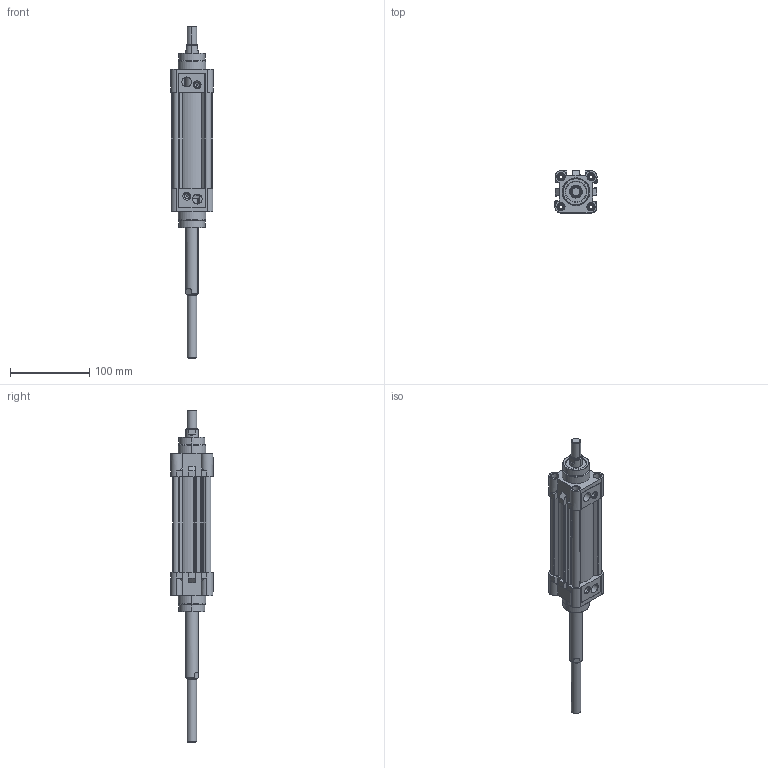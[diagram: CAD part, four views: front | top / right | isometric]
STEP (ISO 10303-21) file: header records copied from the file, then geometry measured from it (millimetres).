
FILE_DESCRIPTION (( 'STEP AP203' ), '1' );
FILE_NAME ('KDNT40X75CIFTMILLI-STROK AYARLI-CYLINDER.STEP', '2016-03-24T11:48:52', ( 'user' ), ( '' ), 'SwSTEP 2.0', 'SolidWorks 2013', '' );
FILE_SCHEMA (( 'CONFIG_CONTROL_DESIGN' ));
Length unit declared in the file: millimetre
Products named in the file (6): KDNT40X75CIFTMILLI-STROK AYARLI-CYLINDER; Saplama Mili STROK AYARLI 40X75 STROK; 烰 KAPAK  40; PÝSTON MÝLÝ 40X75; KDNT 40X75 BORU; ORTA PÝSTON 40 Çift Milli
Assembly tree (6 placements, depth 2):
  KDNT40X75CIFTMILLI-STROK AYARLI-CYLINDER
    烰 KAPAK  40  x2
    KDNT 40X75 BORU
    ORTA PÝSTON 40 Çift Milli
    PÝSTON MÝLÝ 40X75
    Saplama Mili STROK AYARLI 40X75 STROK
Bounding box: 53.06 x 53.36 x 419.1 mm (x, y, z)
Volume: 303054.6 mm3; surface area: 136405.5 mm2
Topology: 6 solids, 6 shells, 712 faces, 1724 edges, 1076 vertices
Faces by surface type: cylinder 322, plane 210, cone 112, bspline 54, torus 14
Entity records: 16497 total; most frequent: CARTESIAN_POINT 4805, DIRECTION 2340, ORIENTED_EDGE 2302, EDGE_CURVE 1151, AXIS2_PLACEMENT_3D 917, VERTEX_POINT 725, EDGE_LOOP 544, LINE 506
